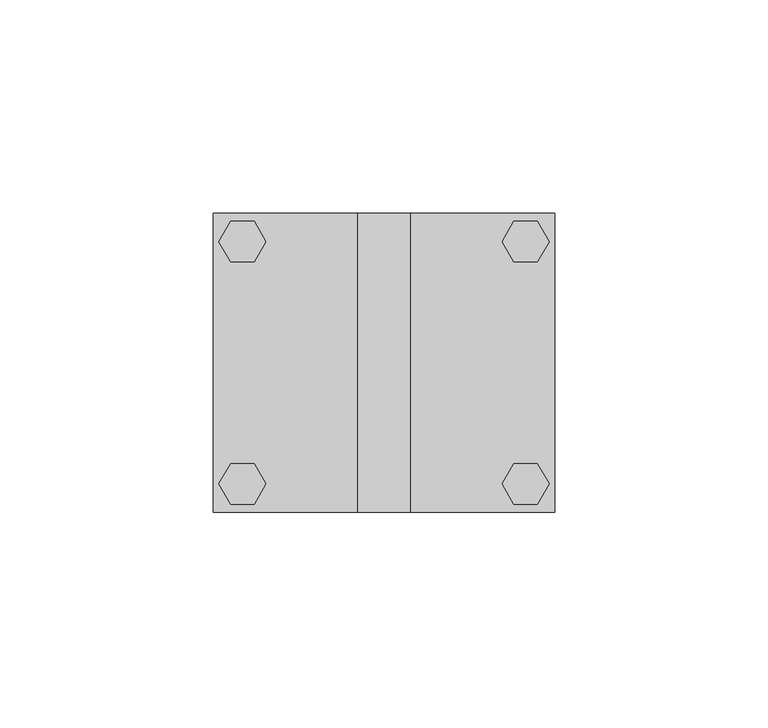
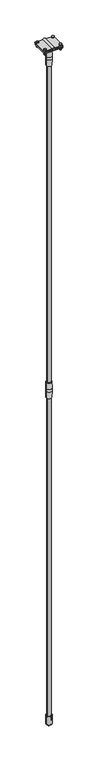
"""IFC4 building model written with IfcOpenShell, lengths in millimetres: proxy geometry, КНС_КомплектВертикальногоЗаземлителя_DKC : NE1104_Горячеоцинкованная сталь_3м."""

from ifc_helpers import new_model, si_unit, point, frame, frame_2d, origin, origin_2d, place, context, project, spatial, polyline, circle_curve, trimmed, segment, composite_curve, outline, extrude, source, transform, mapped, element, save
from ifc_brep_helpers import plane_surface, cylinder_surface, revolved_surface, advanced_brep


def security_devices_4ec9087f(model_context):
    return source(origin(), model_context, "Body", "SolidModel", [
        extrude(outline(composite_curve([segment(trimmed(circle_curve(origin_2d(), 8.0), [point((-8.0, 0.0))], [point((8.0, 0.0))], False, "CARTESIAN"), True, "CONTINUOUS"), segment(trimmed(circle_curve(origin_2d(), 8.0), [point((8.0, 0.0))], [point((-8.0, 0.0))], False, "CARTESIAN"), True, "CONTINUOUS")], self_intersect=False)), frame((0.0, 0.0, 3043.0), z_axis=(0.0, 0.0, 1.0), x_axis=(1.0, 0.0, 0.0)), (0.0, 0.0, 1.0), 44.0),
        extrude(outline(composite_curve([segment(polyline([(3098.0, -40.0), (3095.0, -40.0), (3095.0, -4.0)]), True, "CONTINUOUS"), segment(trimmed(circle_curve(frame_2d((3095.0, 0.0)), 4.0), [point((3095.0, -4.0))], [point((3095.0, 4.0))], True, "CARTESIAN"), True, "CONTINUOUS"), segment(polyline([(3095.0, 4.0), (3095.0, 40.0), (3098.0, 40.0), (3098.0, 6.3245553)]), True, "CONTINUOUS"), segment(trimmed(circle_curve(frame_2d((3095.0, 0.0)), 7.0), [point((3098.0, 6.3245553))], [point((3098.0, -6.3245553))], False, "CARTESIAN"), True, "CONTINUOUS"), segment(polyline([(3098.0, -6.3245553), (3098.0, -40.0)]), True, "CONTINUOUS")], self_intersect=False)), frame((0.0, -35.0, 0.0), z_axis=(0.0, 1.0, 0.0), x_axis=(0.0, 0.0, 1.0)), (0.0, 0.0, 1.0), 70.0),
        extrude(outline(composite_curve([segment(trimmed(circle_curve(frame_2d((-33.2121057, 28.28125)), 3.4209609), [point((-36.6330666, 28.28125))], [point((-29.7911448, 28.28125))], False, "CARTESIAN"), True, "CONTINUOUS"), segment(trimmed(circle_curve(frame_2d((-33.2121057, 28.28125)), 3.4209609), [point((-29.7911448, 28.28125))], [point((-36.6330666, 28.28125))], False, "CARTESIAN"), True, "CONTINUOUS")], self_intersect=False)), frame((0.0, 0.0, 3078.0), z_axis=(0.0, 0.0, 1.0), x_axis=(1.0, 0.0, 0.0)), (0.0, 0.0, 1.0), 20.0),
        extrude(outline(composite_curve([segment(trimmed(circle_curve(frame_2d((33.2121057, 28.28125)), 3.4209609), [point((29.7911448, 28.28125))], [point((36.6330666, 28.28125))], False, "CARTESIAN"), True, "CONTINUOUS"), segment(trimmed(circle_curve(frame_2d((33.2121057, 28.28125)), 3.4209609), [point((36.6330666, 28.28125))], [point((29.7911448, 28.28125))], False, "CARTESIAN"), True, "CONTINUOUS")], self_intersect=False)), frame((0.0, 0.0, 3078.0), z_axis=(0.0, 0.0, 1.0), x_axis=(1.0, 0.0, 0.0)), (0.0, 0.0, 1.0), 20.0),
        extrude(outline(composite_curve([segment(trimmed(circle_curve(frame_2d((-33.2121057, -28.28125)), 3.4209609), [point((-36.6330666, -28.28125))], [point((-29.7911448, -28.28125))], False, "CARTESIAN"), True, "CONTINUOUS"), segment(trimmed(circle_curve(frame_2d((-33.2121057, -28.28125)), 3.4209609), [point((-29.7911448, -28.28125))], [point((-36.6330666, -28.28125))], False, "CARTESIAN"), True, "CONTINUOUS")], self_intersect=False)), frame((0.0, 0.0, 3078.0), z_axis=(0.0, 0.0, 1.0), x_axis=(1.0, 0.0, 0.0)), (0.0, 0.0, 1.0), 20.0),
        extrude(outline(composite_curve([segment(trimmed(circle_curve(frame_2d((33.2121057, -28.28125)), 3.4209609), [point((29.7911448, -28.28125))], [point((36.6330666, -28.28125))], False, "CARTESIAN"), True, "CONTINUOUS"), segment(trimmed(circle_curve(frame_2d((33.2121057, -28.28125)), 3.4209609), [point((36.6330666, -28.28125))], [point((29.7911448, -28.28125))], False, "CARTESIAN"), True, "CONTINUOUS")], self_intersect=False)), frame((0.0, 0.0, 3078.0), z_axis=(0.0, 0.0, 1.0), x_axis=(1.0, 0.0, 0.0)), (0.0, 0.0, 1.0), 20.0),
        extrude(outline(polyline([(-38.6996224, 28.3883083), (-35.955864, 33.1406371), (-30.4683473, 33.1406371), (-27.724589, 28.3883083), (-30.4683473, 23.6359794), (-35.955864, 23.6359794), (-38.6996224, 28.3883083)])), frame((0.0, 0.0, 3082.0), z_axis=(0.0, 0.0, 1.0), x_axis=(1.0, 0.0, 0.0)), (0.0, 0.0, 1.0), 5.0),
        extrude(outline(polyline([(38.6996224, 28.3883083), (35.955864, 23.6359794), (30.4683473, 23.6359794), (27.724589, 28.3883083), (30.4683473, 33.1406371), (35.955864, 33.1406371), (38.6996224, 28.3883083)])), frame((0.0, 0.0, 3082.0), z_axis=(0.0, 0.0, 1.0), x_axis=(1.0, 0.0, 0.0)), (0.0, 0.0, 1.0), 5.0),
        extrude(outline(polyline([(-38.6996224, -28.3883083), (-35.955864, -23.6359794), (-30.4683473, -23.6359794), (-27.724589, -28.3883083), (-30.4683473, -33.1406371), (-35.955864, -33.1406371), (-38.6996224, -28.3883083)])), frame((0.0, 0.0, 3082.0), z_axis=(0.0, 0.0, 1.0), x_axis=(1.0, 0.0, 0.0)), (0.0, 0.0, 1.0), 5.0),
        extrude(outline(polyline([(38.6996224, -28.3883083), (35.955864, -33.1406371), (30.4683473, -33.1406371), (27.724589, -28.3883083), (30.4683473, -23.6359794), (35.955864, -23.6359794), (38.6996224, -28.3883083)])), frame((0.0, 0.0, 3082.0), z_axis=(0.0, 0.0, 1.0), x_axis=(1.0, 0.0, 0.0)), (0.0, 0.0, 1.0), 5.0),
        extrude(outline(polyline([(-38.6996224, 28.3883083), (-35.955864, 33.1406371), (-30.4683473, 33.1406371), (-27.724589, 28.3883083), (-30.4683473, 23.6359794), (-35.955864, 23.6359794), (-38.6996224, 28.3883083)])), frame((0.0, 0.0, 3098.0), z_axis=(0.0, 0.0, 1.0), x_axis=(1.0, 0.0, 0.0)), (0.0, 0.0, 1.0), 5.0),
        extrude(outline(polyline([(38.6996224, 28.3883083), (35.955864, 23.6359794), (30.4683473, 23.6359794), (27.724589, 28.3883083), (30.4683473, 33.1406371), (35.955864, 33.1406371), (38.6996224, 28.3883083)])), frame((0.0, 0.0, 3098.0), z_axis=(0.0, 0.0, 1.0), x_axis=(1.0, 0.0, 0.0)), (0.0, 0.0, 1.0), 5.0),
        extrude(outline(polyline([(-38.6996224, -28.3883083), (-35.955864, -23.6359794), (-30.4683473, -23.6359794), (-27.724589, -28.3883083), (-30.4683473, -33.1406371), (-35.955864, -33.1406371), (-38.6996224, -28.3883083)])), frame((0.0, 0.0, 3098.0), z_axis=(0.0, 0.0, 1.0), x_axis=(1.0, 0.0, 0.0)), (0.0, 0.0, 1.0), 5.0),
        extrude(outline(polyline([(38.6996224, -28.3883083), (35.955864, -33.1406371), (30.4683473, -33.1406371), (27.724589, -28.3883083), (30.4683473, -23.6359794), (35.955864, -23.6359794), (38.6996224, -28.3883083)])), frame((0.0, 0.0, 3098.0), z_axis=(0.0, 0.0, 1.0), x_axis=(1.0, 0.0, 0.0)), (0.0, 0.0, 1.0), 5.0),
        extrude(outline(composite_curve([segment(trimmed(circle_curve(frame_2d((38.0, 33.0)), 2.0), [point((38.0, 35.0))], [point((40.0, 33.0))], False, "CARTESIAN"), True, "CONTINUOUS"), segment(polyline([(40.0, 33.0), (40.0, -33.0)]), True, "CONTINUOUS"), segment(trimmed(circle_curve(frame_2d((38.0, -33.0)), 2.0), [point((40.0, -33.0))], [point((38.0, -35.0))], False, "CARTESIAN"), True, "CONTINUOUS"), segment(polyline([(38.0, -35.0), (-38.0, -35.0)]), True, "CONTINUOUS"), segment(trimmed(circle_curve(frame_2d((-38.0, -33.0)), 2.0), [point((-38.0, -35.0))], [point((-40.0, -33.0))], False, "CARTESIAN"), True, "CONTINUOUS"), segment(polyline([(-40.0, -33.0), (-40.0, 33.0)]), True, "CONTINUOUS"), segment(trimmed(circle_curve(frame_2d((-38.0, 33.0)), 2.0), [point((-40.0, 33.0))], [point((-38.0, 35.0))], False, "CARTESIAN"), True, "CONTINUOUS"), segment(polyline([(-38.0, 35.0), (38.0, 35.0)]), True, "CONTINUOUS")], self_intersect=False)), frame((0.0, 0.0, 3087.0), z_axis=(0.0, 0.0, 1.0), x_axis=(1.0, 0.0, 0.0)), (0.0, 0.0, 1.0), 4.0),
        advanced_brep(
        [(0.0, 0.0, 3033.0), (-8.25, 0.0, 3033.0), (8.25, 0.0, 3033.0), (8.25, 0.0, 3043.0), (-8.25, 0.0, 3043.0), (0.0, 0.0, 3043.0), (8.25, 0.0, 3073.0), (-8.25, 0.0, 3073.0), (11.0, 0.0, 3073.0), (-11.0, 0.0, 3073.0), (12.5, 0.0, 3033.0), (-12.5, 0.0, 3033.0), (-12.5, 0.0, 3043.0), (12.5, 0.0, 3043.0), (11.0, 0.0, 3003.0), (-11.0, 0.0, 3003.0), (8.25, 0.0, 3003.0), (-8.25, 0.0, 3003.0)],
        [
            (0, 1),
            (1, 2, circle_curve(frame((0.0, 0.0, 3033.0), z_axis=(0.0, 0.0, -1.0), x_axis=(-1.0, 0.0, 0.0)), 8.25)),
            (2, 0),
            (2, 1, circle_curve(frame((0.0, 0.0, 3033.0), z_axis=(0.0, 0.0, -1.0), x_axis=(-1.0, 0.0, 0.0)), 8.25)),
            (3, 4, circle_curve(frame((0.0, 0.0, 3043.0), z_axis=(0.0, 0.0, 1.0), x_axis=(-1.0, 0.0, 0.0)), 8.25)),
            (4, 5),
            (5, 3),
            (4, 3, circle_curve(frame((0.0, 0.0, 3043.0), z_axis=(0.0, 0.0, 1.0), x_axis=(-1.0, 0.0, 0.0)), 8.25)),
            (6, 7, circle_curve(frame((0.0, 0.0, 3073.0), z_axis=(0.0, 0.0, 1.0), x_axis=(-1.0, 0.0, 0.0)), 8.25)),
            (7, 4),
            (3, 6),
            (7, 6, circle_curve(frame((0.0, 0.0, 3073.0), z_axis=(0.0, 0.0, 1.0), x_axis=(-1.0, 0.0, 0.0)), 8.25)),
            (8, 9, circle_curve(frame((0.0, 0.0, 3073.0), z_axis=(0.0, 0.0, 1.0), x_axis=(-1.0, 0.0, 0.0)), 11.0)),
            (9, 7),
            (6, 8),
            (9, 8, circle_curve(frame((0.0, 0.0, 3073.0), z_axis=(0.0, 0.0, 1.0), x_axis=(-1.0, 0.0, 0.0)), 11.0)),
            (10, 11, circle_curve(frame((0.0, 0.0, 3033.0), z_axis=(0.0, 0.0, 1.0), x_axis=(-1.0, 0.0, 0.0)), 12.5)),
            (11, 12),
            (12, 13, circle_curve(frame((0.0, 0.0, 3043.0), z_axis=(0.0, 0.0, -1.0), x_axis=(-1.0, 0.0, 0.0)), 12.5)),
            (13, 10),
            (11, 10, circle_curve(frame((0.0, 0.0, 3033.0), z_axis=(0.0, 0.0, 1.0), x_axis=(-1.0, 0.0, 0.0)), 12.5)),
            (13, 12, circle_curve(frame((0.0, 0.0, 3043.0), z_axis=(0.0, 0.0, -1.0), x_axis=(-1.0, 0.0, 0.0)), 12.5)),
            (14, 15, circle_curve(frame((0.0, 0.0, 3003.0), z_axis=(0.0, 0.0, 1.0), x_axis=(-1.0, 0.0, 0.0)), 11.0)),
            (15, 11),
            (10, 14),
            (15, 14, circle_curve(frame((0.0, 0.0, 3003.0), z_axis=(0.0, 0.0, 1.0), x_axis=(-1.0, 0.0, 0.0)), 11.0)),
            (16, 17, circle_curve(frame((0.0, 0.0, 3003.0), z_axis=(0.0, 0.0, 1.0), x_axis=(-1.0, 0.0, 0.0)), 8.25)),
            (17, 15),
            (14, 16),
            (17, 16, circle_curve(frame((0.0, 0.0, 3003.0), z_axis=(0.0, 0.0, 1.0), x_axis=(-1.0, 0.0, 0.0)), 8.25)),
            (1, 17),
            (16, 2),
            (12, 9),
            (8, 13),
        ],
        [
            plane_surface(frame((0.0, 0.0, 3033.0), z_axis=(0.0, 0.0, -1.0), x_axis=(-1.0, 0.0, 0.0))),
            plane_surface(frame((0.0, 0.0, 3043.0), z_axis=(0.0, 0.0, 1.0), x_axis=(-1.0, 0.0, 0.0))),
            revolved_surface(polyline([(-8.25, 0.0, 3043.0), (-8.25, 0.0, 3073.0)]), (0.0, 0.0, 3050.4309863), (0.0, 0.0, -1.0)),
            plane_surface(frame((0.0, 0.0, 3073.0), z_axis=(0.0, 0.0, 1.0), x_axis=(-1.0, 0.0, 0.0))),
            cylinder_surface(frame((0.0, 0.0, 3050.4309863), z_axis=(0.0, 0.0, -1.0), x_axis=(-1.0, 0.0, 0.0)), 12.5),
            revolved_surface(polyline([(-12.5, 0.0, 3033.0), (-11.0, 0.0, 3003.0)]), (0.0, 0.0, 3050.4309863), (0.0, 0.0, -1.0)),
            plane_surface(frame((0.0, 0.0, 3003.0), z_axis=(0.0, 0.0, -1.0), x_axis=(-1.0, 0.0, 0.0))),
            revolved_surface(polyline([(-8.25, 0.0, 3003.0), (-8.25, 0.0, 3033.0)]), (0.0, 0.0, 3050.4309863), (0.0, 0.0, -1.0)),
            revolved_surface(polyline([(-11.0, 0.0, 3073.0), (-12.5, 0.0, 3043.0)]), (0.0, 0.0, 3050.4309863), (0.0, 0.0, -1.0)),
        ],
        [
            (0, [[1, 2, 3]]),
            (0, [[-3, 4, -1]]),
            (1, [[5, 6, 7]]),
            (1, [[8, -7, -6]]),
            (2, [[9, 10, -5, 11]]),
            (2, [[12, -11, -8, -10]]),
            (3, [[13, 14, -9, 15]]),
            (3, [[16, -15, -12, -14]]),
            (4, [[17, 18, 19, 20]]),
            (4, [[21, -20, 22, -18]]),
            (5, [[23, 24, -17, 25]]),
            (5, [[26, -25, -21, -24]]),
            (6, [[27, 28, -23, 29]]),
            (6, [[30, -29, -26, -28]]),
            (7, [[-2, 31, -27, 32]]),
            (7, [[-4, -32, -30, -31]]),
            (8, [[-19, 33, -13, 34]]),
            (8, [[-22, -34, -16, -33]]),
        ],
    ),
        advanced_brep(
        [(0.0, 0.0, 1523.0), (-8.25, 0.0, 1523.0), (8.25, 0.0, 1523.0), (8.25, 0.0, 1533.0), (-8.25, 0.0, 1533.0), (0.0, 0.0, 1533.0), (8.25, 0.0, 1563.0), (-8.25, 0.0, 1563.0), (11.0, 0.0, 1563.0), (-11.0, 0.0, 1563.0), (12.5, 0.0, 1523.0), (-12.5, 0.0, 1523.0), (-12.5, 0.0, 1533.0), (12.5, 0.0, 1533.0), (11.0, 0.0, 1493.0), (-11.0, 0.0, 1493.0), (8.25, 0.0, 1493.0), (-8.25, 0.0, 1493.0)],
        [
            (0, 1),
            (1, 2, circle_curve(frame((0.0, 0.0, 1523.0), z_axis=(0.0, 0.0, -1.0), x_axis=(-1.0, 0.0, 0.0)), 8.25)),
            (2, 0),
            (2, 1, circle_curve(frame((0.0, 0.0, 1523.0), z_axis=(0.0, 0.0, -1.0), x_axis=(-1.0, 0.0, 0.0)), 8.25)),
            (3, 4, circle_curve(frame((0.0, 0.0, 1533.0), z_axis=(0.0, 0.0, 1.0), x_axis=(-1.0, 0.0, 0.0)), 8.25)),
            (4, 5),
            (5, 3),
            (4, 3, circle_curve(frame((0.0, 0.0, 1533.0), z_axis=(0.0, 0.0, 1.0), x_axis=(-1.0, 0.0, 0.0)), 8.25)),
            (6, 7, circle_curve(frame((0.0, 0.0, 1563.0), z_axis=(0.0, 0.0, 1.0), x_axis=(-1.0, 0.0, 0.0)), 8.25)),
            (7, 4),
            (3, 6),
            (7, 6, circle_curve(frame((0.0, 0.0, 1563.0), z_axis=(0.0, 0.0, 1.0), x_axis=(-1.0, 0.0, 0.0)), 8.25)),
            (8, 9, circle_curve(frame((0.0, 0.0, 1563.0), z_axis=(0.0, 0.0, 1.0), x_axis=(-1.0, 0.0, 0.0)), 11.0)),
            (9, 7),
            (6, 8),
            (9, 8, circle_curve(frame((0.0, 0.0, 1563.0), z_axis=(0.0, 0.0, 1.0), x_axis=(-1.0, 0.0, 0.0)), 11.0)),
            (10, 11, circle_curve(frame((0.0, 0.0, 1523.0), z_axis=(0.0, 0.0, 1.0), x_axis=(-1.0, 0.0, 0.0)), 12.5)),
            (11, 12),
            (12, 13, circle_curve(frame((0.0, 0.0, 1533.0), z_axis=(0.0, 0.0, -1.0), x_axis=(-1.0, 0.0, 0.0)), 12.5)),
            (13, 10),
            (11, 10, circle_curve(frame((0.0, 0.0, 1523.0), z_axis=(0.0, 0.0, 1.0), x_axis=(-1.0, 0.0, 0.0)), 12.5)),
            (13, 12, circle_curve(frame((0.0, 0.0, 1533.0), z_axis=(0.0, 0.0, -1.0), x_axis=(-1.0, 0.0, 0.0)), 12.5)),
            (14, 15, circle_curve(frame((0.0, 0.0, 1493.0), z_axis=(0.0, 0.0, 1.0), x_axis=(-1.0, 0.0, 0.0)), 11.0)),
            (15, 11),
            (10, 14),
            (15, 14, circle_curve(frame((0.0, 0.0, 1493.0), z_axis=(0.0, 0.0, 1.0), x_axis=(-1.0, 0.0, 0.0)), 11.0)),
            (16, 17, circle_curve(frame((0.0, 0.0, 1493.0), z_axis=(0.0, 0.0, 1.0), x_axis=(-1.0, 0.0, 0.0)), 8.25)),
            (17, 15),
            (14, 16),
            (17, 16, circle_curve(frame((0.0, 0.0, 1493.0), z_axis=(0.0, 0.0, 1.0), x_axis=(-1.0, 0.0, 0.0)), 8.25)),
            (1, 17),
            (16, 2),
            (12, 9),
            (8, 13),
        ],
        [
            plane_surface(frame((0.0, 0.0, 1523.0), z_axis=(0.0, 0.0, -1.0), x_axis=(-1.0, 0.0, 0.0))),
            plane_surface(frame((0.0, 0.0, 1533.0), z_axis=(0.0, 0.0, 1.0), x_axis=(-1.0, 0.0, 0.0))),
            revolved_surface(polyline([(-8.25, 0.0, 1533.0), (-8.25, 0.0, 1563.0)]), (0.0, 0.0, 1540.4309863), (0.0, 0.0, -1.0)),
            plane_surface(frame((0.0, 0.0, 1563.0), z_axis=(0.0, 0.0, 1.0), x_axis=(-1.0, 0.0, 0.0))),
            cylinder_surface(frame((0.0, 0.0, 1540.4309863), z_axis=(0.0, 0.0, -1.0), x_axis=(-1.0, 0.0, 0.0)), 12.5),
            revolved_surface(polyline([(-12.5, 0.0, 1523.0), (-11.0, 0.0, 1493.0)]), (0.0, 0.0, 1540.4309863), (0.0, 0.0, -1.0)),
            plane_surface(frame((0.0, 0.0, 1493.0), z_axis=(0.0, 0.0, -1.0), x_axis=(-1.0, 0.0, 0.0))),
            revolved_surface(polyline([(-8.25, 0.0, 1493.0), (-8.25, 0.0, 1523.0)]), (0.0, 0.0, 1540.4309863), (0.0, 0.0, -1.0)),
            revolved_surface(polyline([(-11.0, 0.0, 1563.0), (-12.5, 0.0, 1533.0)]), (0.0, 0.0, 1540.4309863), (0.0, 0.0, -1.0)),
        ],
        [
            (0, [[1, 2, 3]]),
            (0, [[-3, 4, -1]]),
            (1, [[5, 6, 7]]),
            (1, [[8, -7, -6]]),
            (2, [[9, 10, -5, 11]]),
            (2, [[12, -11, -8, -10]]),
            (3, [[13, 14, -9, 15]]),
            (3, [[16, -15, -12, -14]]),
            (4, [[17, 18, 19, 20]]),
            (4, [[21, -20, 22, -18]]),
            (5, [[23, 24, -17, 25]]),
            (5, [[26, -25, -21, -24]]),
            (6, [[27, 28, -23, 29]]),
            (6, [[30, -29, -26, -28]]),
            (7, [[-2, 31, -27, 32]]),
            (7, [[-4, -32, -30, -31]]),
            (8, [[-19, 33, -13, 34]]),
            (8, [[-22, -34, -16, -33]]),
        ],
    ),
        extrude(outline(composite_curve([segment(trimmed(circle_curve(origin_2d(), 8.0), [point((-8.0, 0.0))], [point((8.0, 0.0))], False, "CARTESIAN"), True, "CONTINUOUS"), segment(trimmed(circle_curve(origin_2d(), 8.0), [point((8.0, 0.0))], [point((-8.0, 0.0))], False, "CARTESIAN"), True, "CONTINUOUS")], self_intersect=False)), frame((0.0, 0.0, 1533.0), z_axis=(0.0, 0.0, 1.0), x_axis=(1.0, 0.0, 0.0)), (0.0, 0.0, 1.0), 1500.0),
        extrude(outline(composite_curve([segment(trimmed(circle_curve(origin_2d(), 8.0), [point((-8.0, 0.0))], [point((8.0, 0.0))], False, "CARTESIAN"), True, "CONTINUOUS"), segment(trimmed(circle_curve(origin_2d(), 8.0), [point((8.0, 0.0))], [point((-8.0, 0.0))], False, "CARTESIAN"), True, "CONTINUOUS")], self_intersect=False)), frame((0.0, 0.0, 23.0), z_axis=(0.0, 0.0, 1.0), x_axis=(1.0, 0.0, 0.0)), (0.0, 0.0, 1.0), 1500.0),
        advanced_brep(
        [(-8.2, 0.0, 47.0), (8.2, 0.0, 47.0), (12.5, 0.0, 47.0), (-12.5, 0.0, 47.0), (-8.2, 0.0, 23.0), (8.2, 0.0, 23.0), (0.0, 0.0, 23.0), (-2.5, 0.0, 0.0), (2.5, 0.0, 0.0), (0.0, 0.0, 0.0), (-12.5, 0.0, 10.0), (12.5, 0.0, 10.0)],
        [
            (0, 1, circle_curve(frame((0.0, 0.0, 47.0), z_axis=(0.0, 0.0, -1.0), x_axis=(1.0, 0.0, 0.0)), 8.2)),
            (1, 2),
            (2, 3, circle_curve(frame((0.0, 0.0, 47.0), z_axis=(0.0, 0.0, 1.0), x_axis=(1.0, 0.0, 0.0)), 12.5)),
            (3, 0),
            (1, 0, circle_curve(frame((0.0, 0.0, 47.0), z_axis=(0.0, 0.0, -1.0), x_axis=(1.0, 0.0, 0.0)), 8.2)),
            (3, 2, circle_curve(frame((0.0, 0.0, 47.0), z_axis=(0.0, 0.0, 1.0), x_axis=(1.0, 0.0, 0.0)), 12.5)),
            (4, 5, circle_curve(frame((0.0, 0.0, 23.0), z_axis=(0.0, 0.0, -1.0), x_axis=(1.0, 0.0, 0.0)), 8.2)),
            (5, 1),
            (0, 4),
            (5, 4, circle_curve(frame((0.0, 0.0, 23.0), z_axis=(0.0, 0.0, -1.0), x_axis=(1.0, 0.0, 0.0)), 8.2)),
            (6, 5),
            (4, 6),
            (7, 8, circle_curve(frame((0.0, 0.0, 0.0), z_axis=(0.0, 0.0, -1.0), x_axis=(1.0, 0.0, 0.0)), 2.5)),
            (8, 9),
            (9, 7),
            (8, 7, circle_curve(frame((0.0, 0.0, 0.0), z_axis=(0.0, 0.0, -1.0), x_axis=(1.0, 0.0, 0.0)), 2.5)),
            (10, 11, circle_curve(frame((0.0, 0.0, 10.0), z_axis=(0.0, 0.0, -1.0), x_axis=(1.0, 0.0, 0.0)), 12.5)),
            (11, 8),
            (7, 10),
            (11, 10, circle_curve(frame((0.0, 0.0, 10.0), z_axis=(0.0, 0.0, -1.0), x_axis=(1.0, 0.0, 0.0)), 12.5)),
            (2, 11),
            (10, 3),
        ],
        [
            plane_surface(frame((0.0, 0.0, 47.0), z_axis=(0.0, 0.0, 1.0), x_axis=(1.0, 0.0, 0.0))),
            revolved_surface(polyline([(8.2, 0.0, 47.0), (8.2, 0.0, 23.0)]), (0.0, 0.0, 2237.3150031), (0.0, 0.0, 1.0)),
            plane_surface(frame((0.0, 0.0, 23.0), z_axis=(0.0, 0.0, 1.0), x_axis=(1.0, 0.0, 0.0))),
            plane_surface(frame((0.0, 0.0, 0.0), z_axis=(0.0, 0.0, -1.0), x_axis=(1.0, 0.0, 0.0))),
            revolved_surface(polyline([(2.5, 0.0, 0.0), (12.5, 0.0, 10.0)]), (0.0, 0.0, 2237.3150031), (0.0, 0.0, 1.0)),
            cylinder_surface(frame((0.0, 0.0, 2237.3150031), z_axis=(0.0, 0.0, 1.0), x_axis=(1.0, 0.0, 0.0)), 12.5),
        ],
        [
            (0, [[1, 2, 3, 4]]),
            (0, [[5, -4, 6, -2]]),
            (1, [[7, 8, -1, 9]]),
            (1, [[10, -9, -5, -8]]),
            (2, [[11, -7, 12]]),
            (2, [[-12, -10, -11]]),
            (3, [[13, 14, 15]]),
            (3, [[16, -15, -14]]),
            (4, [[17, 18, -13, 19]]),
            (4, [[20, -19, -16, -18]]),
            (5, [[-3, 21, -17, 22]]),
            (5, [[-6, -22, -20, -21]]),
        ],
    ),
    ])


if __name__ == "__main__":
    model = new_model("IFC4")
    model_context = context("Model", 3, world=origin())
    ifc_project = project(units=[si_unit("LENGTHUNIT", "METRE", prefix="MILLI")], contexts=[model_context])
    site = spatial("IfcSite", under=ifc_project)
    building = spatial("IfcBuilding", under=site)
    placement = place(None, origin())
    security_devices_shape = security_devices_4ec9087f(model_context)
    element("IfcBuildingElementProxy", 1, Name="КНС_КомплектВертикальногоЗаземлителя_DKC : NE1104_Горячеоцинкованная сталь_3м", ObjectType="КНС_КомплектВертикальногоЗаземлителя_DKC : NE1104_Горячеоцинкованная сталь_3м", at=placement, inside=building, context=model_context, shape_type="MappedRepresentation", body=[
        mapped(security_devices_shape, transform((0.0, 0.0, 0.0), x_axis=(1.0, 0.0, 0.0), y_axis=(0.0, 1.0, 0.0), z_axis=(0.0, 0.0, 1.0))),
    ])
    save(model, "model.ifc")
